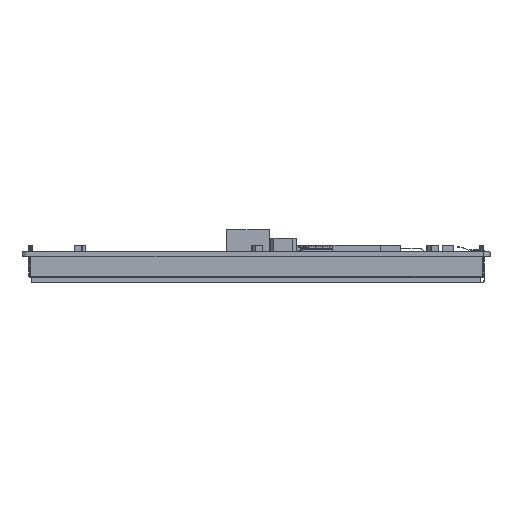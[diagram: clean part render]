
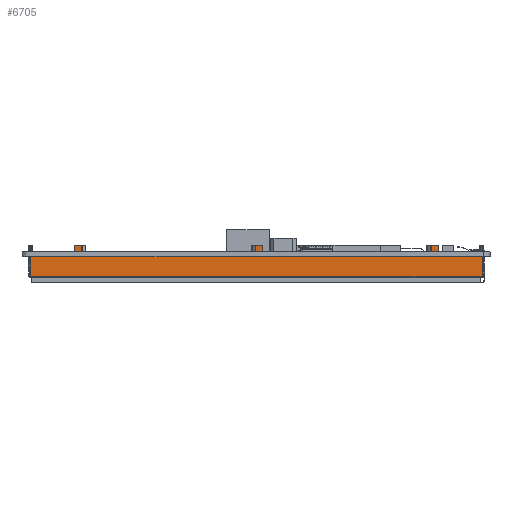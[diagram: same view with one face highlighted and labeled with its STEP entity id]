
A CAD part, left-side view. The second image highlights one B-rep face of the part: STEP entity #6705.
In plain terms, the highlighted planar face has unit normal (-1, 0, 0).
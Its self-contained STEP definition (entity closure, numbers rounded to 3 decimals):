
#4380=PLANE('',#53198);
#6705=ADVANCED_FACE('',(#9560),#4380,.T.);
#9560=FACE_OUTER_BOUND('',#11987,.T.);
#11987=EDGE_LOOP('',(#25081,#25082,#25083,#25084,#25085,#25086,#25087,#25088,
#25089,#25090,#25091,#25092,#25093,#25094,#25095,#25096,#25097,#25098,#25099,
#25100,#25101,#25102));
#25081=ORIENTED_EDGE('',*,*,#37655,.F.);
#25082=ORIENTED_EDGE('',*,*,#37656,.T.);
#25083=ORIENTED_EDGE('',*,*,#37657,.T.);
#25084=ORIENTED_EDGE('',*,*,#37658,.F.);
#25085=ORIENTED_EDGE('',*,*,#37659,.F.);
#25086=ORIENTED_EDGE('',*,*,#37660,.F.);
#25087=ORIENTED_EDGE('',*,*,#37661,.T.);
#25088=ORIENTED_EDGE('',*,*,#37662,.T.);
#25089=ORIENTED_EDGE('',*,*,#37663,.T.);
#25090=ORIENTED_EDGE('',*,*,#37652,.F.);
#25091=ORIENTED_EDGE('',*,*,#37664,.F.);
#25092=ORIENTED_EDGE('',*,*,#37665,.F.);
#25093=ORIENTED_EDGE('',*,*,#37666,.T.);
#25094=ORIENTED_EDGE('',*,*,#37667,.T.);
#25095=ORIENTED_EDGE('',*,*,#37668,.T.);
#25096=ORIENTED_EDGE('',*,*,#37648,.F.);
#25097=ORIENTED_EDGE('',*,*,#37669,.F.);
#25098=ORIENTED_EDGE('',*,*,#37670,.T.);
#25099=ORIENTED_EDGE('',*,*,#37671,.F.);
#25100=ORIENTED_EDGE('',*,*,#37672,.F.);
#25101=ORIENTED_EDGE('',*,*,#37673,.T.);
#25102=ORIENTED_EDGE('',*,*,#37646,.F.);
#31057=VERTEX_POINT('',#78363);
#31059=VERTEX_POINT('',#78367);
#31060=VERTEX_POINT('',#78371);
#31062=VERTEX_POINT('',#78374);
#31064=VERTEX_POINT('',#78380);
#31066=VERTEX_POINT('',#78383);
#31068=VERTEX_POINT('',#78389);
#31069=VERTEX_POINT('',#78391);
#31070=VERTEX_POINT('',#78393);
#31071=VERTEX_POINT('',#78395);
#31072=VERTEX_POINT('',#78397);
#31073=VERTEX_POINT('',#78399);
#31074=VERTEX_POINT('',#78401);
#31075=VERTEX_POINT('',#78403);
#31076=VERTEX_POINT('',#78406);
#31077=VERTEX_POINT('',#78408);
#31078=VERTEX_POINT('',#78410);
#31079=VERTEX_POINT('',#78412);
#31080=VERTEX_POINT('',#78415);
#31081=VERTEX_POINT('',#78417);
#31082=VERTEX_POINT('',#78419);
#31083=VERTEX_POINT('',#78421);
#37646=EDGE_CURVE('',#31059,#31057,#43789,.T.);
#37648=EDGE_CURVE('',#31060,#31062,#43791,.T.);
#37652=EDGE_CURVE('',#31064,#31066,#43795,.T.);
#37655=EDGE_CURVE('',#31068,#31059,#43798,.T.);
#37656=EDGE_CURVE('',#31068,#31069,#43799,.T.);
#37657=EDGE_CURVE('',#31069,#31070,#43800,.T.);
#37658=EDGE_CURVE('',#31071,#31070,#43801,.T.);
#37659=EDGE_CURVE('',#31072,#31071,#43802,.T.);
#37660=EDGE_CURVE('',#31073,#31072,#43803,.T.);
#37661=EDGE_CURVE('',#31073,#31074,#43804,.T.);
#37662=EDGE_CURVE('',#31074,#31075,#43805,.T.);
#37663=EDGE_CURVE('',#31075,#31066,#43806,.T.);
#37664=EDGE_CURVE('',#31076,#31064,#43807,.T.);
#37665=EDGE_CURVE('',#31077,#31076,#43808,.T.);
#37666=EDGE_CURVE('',#31077,#31078,#43809,.T.);
#37667=EDGE_CURVE('',#31078,#31079,#43810,.T.);
#37668=EDGE_CURVE('',#31079,#31062,#43811,.T.);
#37669=EDGE_CURVE('',#31080,#31060,#43812,.T.);
#37670=EDGE_CURVE('',#31080,#31081,#43813,.T.);
#37671=EDGE_CURVE('',#31082,#31081,#43814,.T.);
#37672=EDGE_CURVE('',#31083,#31082,#43815,.T.);
#37673=EDGE_CURVE('',#31083,#31057,#43816,.T.);
#43789=LINE('',#78368,#49654);
#43791=LINE('',#78373,#49656);
#43795=LINE('',#78382,#49660);
#43798=LINE('',#78388,#49663);
#43799=LINE('',#78390,#49664);
#43800=LINE('',#78392,#49665);
#43801=LINE('',#78394,#49666);
#43802=LINE('',#78396,#49667);
#43803=LINE('',#78398,#49668);
#43804=LINE('',#78400,#49669);
#43805=LINE('',#78402,#49670);
#43806=LINE('',#78404,#49671);
#43807=LINE('',#78405,#49672);
#43808=LINE('',#78407,#49673);
#43809=LINE('',#78409,#49674);
#43810=LINE('',#78411,#49675);
#43811=LINE('',#78413,#49676);
#43812=LINE('',#78414,#49677);
#43813=LINE('',#78416,#49678);
#43814=LINE('',#78418,#49679);
#43815=LINE('',#78420,#49680);
#43816=LINE('',#78422,#49681);
#49654=VECTOR('',#64323,1.);
#49656=VECTOR('',#64327,1.);
#49660=VECTOR('',#64333,1.);
#49663=VECTOR('',#64338,1.);
#49664=VECTOR('',#64339,1.);
#49665=VECTOR('',#64340,1.);
#49666=VECTOR('',#64341,1.);
#49667=VECTOR('',#64342,1.);
#49668=VECTOR('',#64343,1.);
#49669=VECTOR('',#64344,1.);
#49670=VECTOR('',#64345,1.);
#49671=VECTOR('',#64346,1.);
#49672=VECTOR('',#64347,1.);
#49673=VECTOR('',#64348,1.);
#49674=VECTOR('',#64349,1.);
#49675=VECTOR('',#64350,1.);
#49676=VECTOR('',#64351,1.);
#49677=VECTOR('',#64352,1.);
#49678=VECTOR('',#64353,1.);
#49679=VECTOR('',#64354,1.);
#49680=VECTOR('',#64355,1.);
#49681=VECTOR('',#64356,1.);
#53198=AXIS2_PLACEMENT_3D('',#78423,#64357,#64358);
#64323=DIRECTION('',(0.,-1.,0.));
#64327=DIRECTION('',(0.,-1.,0.));
#64333=DIRECTION('',(0.,-1.,0.));
#64338=DIRECTION('',(0.,0.,1.));
#64339=DIRECTION('',(0.,-1.,0.));
#64340=DIRECTION('',(0.,0.,1.));
#64341=DIRECTION('',(0.,-1.,0.));
#64342=DIRECTION('',(0.,0.,-1.));
#64343=DIRECTION('',(0.,-1.,0.));
#64344=DIRECTION('',(0.,0.,-1.));
#64345=DIRECTION('',(0.,-1.,0.));
#64346=DIRECTION('',(0.,0.,-1.));
#64347=DIRECTION('',(0.,0.,-1.));
#64348=DIRECTION('',(0.,-1.,0.));
#64349=DIRECTION('',(0.,0.,-1.));
#64350=DIRECTION('',(0.,-1.,0.));
#64351=DIRECTION('',(0.,0.,-1.));
#64352=DIRECTION('',(0.,0.,-1.));
#64353=DIRECTION('',(0.,-1.,0.));
#64354=DIRECTION('',(0.,0.,-1.));
#64355=DIRECTION('',(0.,-1.,0.));
#64356=DIRECTION('',(0.,0.,-1.));
#64357=DIRECTION('',(-1.,0.,0.));
#64358=DIRECTION('',(0.,1.,0.));
#78363=CARTESIAN_POINT('',(1013.555,86.184,-1.6));
#78367=CARTESIAN_POINT('',(1013.555,100.243,-1.6));
#78368=CARTESIAN_POINT('',(1013.555,100.243,-1.6));
#78371=CARTESIAN_POINT('',(1013.555,84.184,-1.6));
#78373=CARTESIAN_POINT('',(1013.555,100.243,-1.6));
#78374=CARTESIAN_POINT('',(1013.555,28.708,-1.6));
#78380=CARTESIAN_POINT('',(1013.555,26.708,-1.6));
#78382=CARTESIAN_POINT('',(1013.555,100.243,-1.6));
#78383=CARTESIAN_POINT('',(1013.555,-26.802,-1.6));
#78388=CARTESIAN_POINT('',(1013.555,100.243,-8.1));
#78389=CARTESIAN_POINT('',(1013.555,100.243,-7.7));
#78390=CARTESIAN_POINT('',(1013.555,-42.757,-7.7));
#78391=CARTESIAN_POINT('',(1013.555,-42.757,-7.7));
#78392=CARTESIAN_POINT('',(1013.555,-42.757,-8.1));
#78393=CARTESIAN_POINT('',(1013.555,-42.757,-1.6));
#78394=CARTESIAN_POINT('',(1013.555,100.243,-1.6));
#78395=CARTESIAN_POINT('',(1013.555,-28.802,-1.6));
#78396=CARTESIAN_POINT('',(1013.555,-28.802,2.));
#78397=CARTESIAN_POINT('',(1013.555,-28.802,2.));
#78398=CARTESIAN_POINT('',(1013.555,-26.575,2.));
#78399=CARTESIAN_POINT('',(1013.555,-26.575,2.));
#78400=CARTESIAN_POINT('',(1013.555,-26.575,2.));
#78401=CARTESIAN_POINT('',(1013.555,-26.575,0.));
#78402=CARTESIAN_POINT('',(1013.555,-26.575,0.));
#78403=CARTESIAN_POINT('',(1013.555,-26.802,0.));
#78404=CARTESIAN_POINT('',(1013.555,-26.802,0.));
#78405=CARTESIAN_POINT('',(1013.555,26.708,0.));
#78406=CARTESIAN_POINT('',(1013.555,26.708,2.));
#78407=CARTESIAN_POINT('',(1013.555,28.935,2.));
#78408=CARTESIAN_POINT('',(1013.555,28.935,2.));
#78409=CARTESIAN_POINT('',(1013.555,28.935,2.));
#78410=CARTESIAN_POINT('',(1013.555,28.935,0.));
#78411=CARTESIAN_POINT('',(1013.555,28.935,0.));
#78412=CARTESIAN_POINT('',(1013.555,28.708,0.));
#78413=CARTESIAN_POINT('',(1013.555,28.708,0.));
#78414=CARTESIAN_POINT('',(1013.555,84.184,0.));
#78415=CARTESIAN_POINT('',(1013.555,84.184,0.));
#78416=CARTESIAN_POINT('',(1013.555,86.184,0.));
#78417=CARTESIAN_POINT('',(1013.555,83.957,0.));
#78418=CARTESIAN_POINT('',(1013.555,83.957,2.));
#78419=CARTESIAN_POINT('',(1013.555,83.957,2.));
#78420=CARTESIAN_POINT('',(1013.555,86.184,2.));
#78421=CARTESIAN_POINT('',(1013.555,86.184,2.));
#78422=CARTESIAN_POINT('',(1013.555,86.184,0.));
#78423=CARTESIAN_POINT('',(1013.555,100.243,-8.1));
